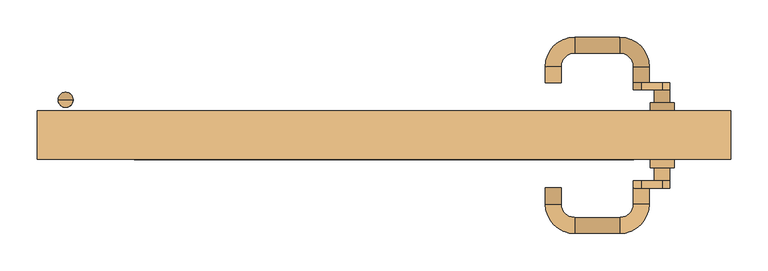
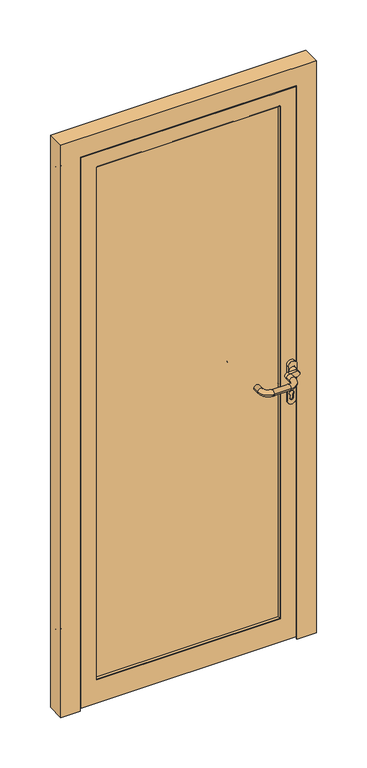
"""IFC4 building model written with IfcOpenShell, lengths in millimetres: door geometry, Porte Ext vitrée : Menuiserie 3."""

import ifcopenshell
import ifcopenshell.guid

model = None  # the IFC model being written
_history = None  # IfcOwnerHistory: only IFC2X3 demands one
_inside = {}  # id of a spatial element -> (the spatial element, [elements in it])
_under = {}  # id of a project, library or spatial element -> (it, [spatial elements below it])
_declared = {}  # id of a project -> (the project, [libraries it declares])
_typed = {}  # id of a type object -> (the type object, [elements of that type])
_made_of = {}  # id of a material, layer set ... -> (it, [elements and type objects made of it])


def new_model(schema):
    """Start an empty IFC model of exactly this schema.

    Asked for "IFC4X3", IfcOpenShell would pick the latest addendum, in which some entities
    have other attributes; the version numbers below select the first issue.
    IFC2X3 requires an IfcOwnerHistory on every rooted entity: one is made here for all.
    """
    global model, _history
    if schema == "IFC4X3":
        model = ifcopenshell.file(schema_version=(4, 3, 0, 0))
    else:
        model = ifcopenshell.file(schema=schema)
    _inside.clear()
    _under.clear()
    _declared.clear()
    _typed.clear()
    _made_of.clear()
    _history = None
    if model.schema == "IFC2X3":
        org = make("IfcOrganization", Name="unknown")
        user = make(
            "IfcPersonAndOrganization",
            ThePerson=make("IfcPerson", FamilyName="unknown"),
            TheOrganization=org,
        )
        app = make(
            "IfcApplication",
            ApplicationDeveloper=org,
            Version="unknown",
            ApplicationFullName="unknown",
            ApplicationIdentifier="unknown",
        )
        _history = make(
            "IfcOwnerHistory",
            OwningUser=user,
            OwningApplication=app,
            ChangeAction="ADDED",
            CreationDate=0,
        )
    return model


def make(cls, **values):
    """One entity of the class cls with the attributes given. An attribute that is None is left unset."""
    return model.create_entity(
        cls, **{name: value for name, value in values.items() if value is not None}
    )


def rooted(cls, **values):
    """An entity with a GlobalId (a new one), such as an element, a storey or a relation."""
    return make(cls, GlobalId=ifcopenshell.guid.new(), OwnerHistory=_history, **values)


def si_unit(unit_type, name, prefix=None):
    """IfcSIUnit, for example si_unit("LENGTHUNIT", "METRE", prefix="MILLI")."""
    return make("IfcSIUnit", UnitType=unit_type, Prefix=prefix, Name=name)


def assignment(units):
    """IfcUnitAssignment: the units of a project."""
    return None if units is None else make("IfcUnitAssignment", Units=units)


def point(xyz):
    """IfcCartesianPoint."""
    return None if xyz is None else make("IfcCartesianPoint", Coordinates=xyz)


def direction(xyz):
    """IfcDirection."""
    return None if xyz is None else make("IfcDirection", DirectionRatios=xyz)


def frame(location, z_axis=None, x_axis=None):
    """IfcAxis2Placement3D, a coordinate frame: its origin and axes. An axis left out is left unset."""
    return make(
        "IfcAxis2Placement3D",
        Location=point(location),
        Axis=direction(z_axis),
        RefDirection=direction(x_axis),
    )


def frame_2d(location, x_axis=None):
    """IfcAxis2Placement2D, a coordinate frame in the plane: its origin and x axis."""
    return make(
        "IfcAxis2Placement2D", Location=point(location), RefDirection=direction(x_axis)
    )


def origin():
    """The frame at (0, 0, 0) with its axes left unset."""
    return frame((0.0, 0.0, 0.0))


def place(relative_to, where):
    """IfcLocalPlacement: puts the frame where relative to a parent placement (None: the world)."""
    return make(
        "IfcLocalPlacement", PlacementRelTo=relative_to, RelativePlacement=where
    )


def context(
    kind, dimensions, precision=None, world=None, true_north=None, identifier=None
):
    """IfcGeometricRepresentationContext, for example the 3D "Model" context."""
    return make(
        "IfcGeometricRepresentationContext",
        ContextIdentifier=identifier,
        ContextType=kind,
        CoordinateSpaceDimension=dimensions,
        Precision=precision,
        WorldCoordinateSystem=world,
        TrueNorth=true_north,
    )


def project(units=None, contexts=None):
    """IfcProject with its units and contexts."""
    return rooted(
        "IfcProject",
        Name="project",
        RepresentationContexts=contexts,
        UnitsInContext=assignment(units),
    )


def spatial(cls, under=None, at=None, **own):
    """A site, building, storey or space (cls), placed at a placement, below another one or the project."""
    s = rooted(cls, ObjectPlacement=at, **own)
    if under is not None:
        _under.setdefault(under.id(), (under, []))[1].append(s)
    return s


def polyline(points):
    """IfcPolyline through the points."""
    return make("IfcPolyline", Points=[point(p) for p in points])


def circle_curve(where, radius):
    """IfcCircle in the frame where."""
    return make("IfcCircle", Position=where, Radius=radius)


def ellipse_curve(where, semi_axis1, semi_axis2):
    """IfcEllipse in the frame where."""
    return make(
        "IfcEllipse", Position=where, SemiAxis1=semi_axis1, SemiAxis2=semi_axis2
    )


def trimmed(basis, trim1, trim2, sense, master):
    """IfcTrimmedCurve: the piece of a basis curve between two trims."""
    return make(
        "IfcTrimmedCurve",
        BasisCurve=basis,
        Trim1=trim1,
        Trim2=trim2,
        SenseAgreement=sense,
        MasterRepresentation=master,
    )


def segment(curve, same_sense, transition):
    """IfcCompositeCurveSegment."""
    return make(
        "IfcCompositeCurveSegment",
        Transition=transition,
        SameSense=same_sense,
        ParentCurve=curve,
    )


def composite_curve(segments, self_intersect=None):
    """IfcCompositeCurve: segments joined end to end."""
    return make("IfcCompositeCurve", Segments=segments, SelfIntersect=self_intersect)


def outline(outer, holes=None, kind="AREA"):
    """IfcArbitraryClosedProfileDef: a profile drawn as a closed curve; with holes, ...WithVoids."""
    if holes is None:
        return make("IfcArbitraryClosedProfileDef", ProfileType=kind, OuterCurve=outer)
    return make(
        "IfcArbitraryProfileDefWithVoids",
        ProfileType=kind,
        OuterCurve=outer,
        InnerCurves=holes,
    )


def extrude(swept, where, along, depth):
    """IfcExtrudedAreaSolid: the profile swept, set in the frame where, extruded along a direction by depth."""
    return make(
        "IfcExtrudedAreaSolid",
        SweptArea=swept,
        Position=where,
        ExtrudedDirection=direction(along),
        Depth=depth,
    )


def faces_of(points, faces, orient=None, outer=None):
    """IfcFace entities. A face is a list of loops; a loop is a list of indices into points, from 0.

    orient and outer hold one flag for each loop. By default every Orientation is true, the
    first loop of a face is its IfcFaceOuterBound and the others are IfcFaceBound.
    """
    made = []
    for i, loops in enumerate(faces):
        bounds = []
        for j, loop in enumerate(loops):
            is_outer = j == 0 if outer is None else outer[i][j]
            bounds.append(
                make(
                    "IfcFaceOuterBound" if is_outer else "IfcFaceBound",
                    Bound=make("IfcPolyLoop", Polygon=[points[k] for k in loop]),
                    Orientation=True if orient is None else orient[i][j],
                )
            )
        made.append(make("IfcFace", Bounds=bounds))
    return made


def faceted_brep(points, faces, orient=None, outer=None, voids=None):
    """IfcFacetedBrep: a solid bounded by flat faces; with voids (closed shells), ...WithVoids."""
    shared = [point(p) for p in points]
    hull = make("IfcClosedShell", CfsFaces=faces_of(shared, faces, orient, outer))
    if voids is None:
        return make("IfcFacetedBrep", Outer=hull)
    return make(
        "IfcFacetedBrepWithVoids",
        Outer=hull,
        Voids=[
            make(cls, CfsFaces=faces_of(shared, fs, o, b)) for cls, fs, o, b in voids
        ],
    )


def shape(context_of_items, identifier, shape_type, items):
    """IfcShapeRepresentation: the items that make up one representation, for example the "Body"."""
    return make(
        "IfcShapeRepresentation",
        ContextOfItems=context_of_items,
        RepresentationIdentifier=identifier,
        RepresentationType=shape_type,
        Items=items,
    )


def source(mapping_origin, context_of_items, identifier, shape_type, items):
    """IfcRepresentationMap: a shape defined once, which mapped items show again and again."""
    return make(
        "IfcRepresentationMap",
        MappingOrigin=mapping_origin,
        MappedRepresentation=shape(context_of_items, identifier, shape_type, items),
    )


def transform(
    local_origin,
    x_axis=None,
    y_axis=None,
    z_axis=None,
    scale=None,
    scale2=None,
    scale3=None,
    uniform=True,
):
    """IfcCartesianTransformationOperator3D, or its non-uniform kind. x_axis, y_axis, z_axis: its Axis1, 2, 3."""
    if uniform:
        return make(
            "IfcCartesianTransformationOperator3D",
            Axis1=direction(x_axis),
            Axis2=direction(y_axis),
            LocalOrigin=point(local_origin),
            Scale=scale,
            Axis3=direction(z_axis),
        )
    return make(
        "IfcCartesianTransformationOperator3DnonUniform",
        Axis1=direction(x_axis),
        Axis2=direction(y_axis),
        LocalOrigin=point(local_origin),
        Scale=scale,
        Axis3=direction(z_axis),
        Scale2=scale2,
        Scale3=scale3,
    )


def mapped(mapping_source, mapping_target):
    """IfcMappedItem: shows the shape of a source again, moved by a transform."""
    return make(
        "IfcMappedItem", MappingSource=mapping_source, MappingTarget=mapping_target
    )


def made_of(thing, what):
    """Note that an element or type object is made of a material, layer set ...; save() writes the relation."""
    if what is not None:
        _made_of.setdefault(what.id(), (what, []))[1].append(thing)
    return thing


def element(
    cls,
    number,
    at=None,
    inside=None,
    cuts=None,
    type_object=None,
    material=None,
    context=None,
    identifier="Body",
    shape_type=None,
    held_by="IfcProductDefinitionShape",
    body=None,
    shapes=None,
    **own,
):
    """One element of the class cls, such as IfcWall. Its Tag is "e" and its number.

    at: its placement. inside: the storey or other place that contains it. cuts: it is an
    opening in that element (IfcRelVoidsElement). A single representation is given by context,
    identifier, shape_type and body (its items); several are given by shapes. held_by: the class
    of the entity that holds the representations. save() writes the other relations.
    """
    e = rooted(cls, Tag="e%d" % number, ObjectPlacement=at, **own)
    if body is not None:
        shapes = [shape(context, identifier, shape_type, body)]
    if shapes is not None:
        e.Representation = make(held_by, Representations=shapes)
    if inside is not None:
        _inside.setdefault(inside.id(), (inside, []))[1].append(e)
    if cuts is not None:
        rooted(
            "IfcRelVoidsElement", RelatingBuildingElement=cuts, RelatedOpeningElement=e
        )
    if type_object is not None:
        _typed.setdefault(type_object.id(), (type_object, []))[1].append(e)
    return made_of(e, material)


def aggregate(whole, parts):
    """IfcRelAggregates: a whole, such as a stair, and the parts it consists of."""
    return rooted("IfcRelAggregates", RelatingObject=whole, RelatedObjects=parts)


def save(model, path):
    """Write the relations noted so far, then the file.

    IfcRelAggregates (storeys below a building ...), IfcRelContainedInSpatialStructure (elements
    in a storey), IfcRelDefinesByType, IfcRelAssociatesMaterial and IfcRelDeclares: one each for
    every whole, place, type object, material and project.
    """
    for whole, parts in _under.values():
        aggregate(whole, parts)
    for where, things in _inside.values():
        rooted(
            "IfcRelContainedInSpatialStructure",
            RelatedElements=things,
            RelatingStructure=where,
        )
    for kind, things in _typed.values():
        rooted("IfcRelDefinesByType", RelatedObjects=things, RelatingType=kind)
    for what, things in _made_of.values():
        rooted("IfcRelAssociatesMaterial", RelatedObjects=things, RelatingMaterial=what)
    for by, libraries in _declared.values():
        rooted("IfcRelDeclares", RelatingContext=by, RelatedDefinitions=libraries)
    model.write(path)


def plane_surface(at):
    """IfcPlane: the flat surface through the origin of the frame at, square to its z axis."""
    return make("IfcPlane", Position=at)


def cylinder_surface(at, radius):
    """IfcCylindricalSurface: all points at the distance radius from the z axis of the frame at."""
    return make("IfcCylindricalSurface", Position=at, Radius=radius)


def revolved_surface(curve, axis_point, axis_direction):
    """IfcSurfaceOfRevolution: the curve turned about the line through axis_point along axis_direction."""
    return make(
        "IfcSurfaceOfRevolution",
        SweptCurve=make("IfcArbitraryOpenProfileDef", ProfileType="CURVE", Curve=curve),
        AxisPosition=make("IfcAxis1Placement", Location=point(axis_point), Axis=direction(axis_direction)),
    )


def advanced_brep(points, edges, surfaces, faces):
    """IfcAdvancedBrep: a solid bounded by faces that lie on surfaces and meet in shared edges.

    An edge is (start, end): straight between two places in points (the first is 0);
    or (start, end, curve); or (start, end, curve, False) where it runs against its curve.
    A face is (place in surfaces, loops), or (place, loops, False) where it looks against
    its surface's normal. A loop lists edges by number (the first is 1), with a minus sign
    where the edge is run from its end to its start. The first loop is the outer one.
    """
    corners = [point(p) for p in points]
    vertices = [make("IfcVertexPoint", VertexGeometry=c) for c in corners]
    made = []
    for start, end, *more in edges:
        made.append(
            make(
                "IfcEdgeCurve",
                EdgeStart=vertices[start],
                EdgeEnd=vertices[end],
                EdgeGeometry=more[0] if more else make("IfcPolyline", Points=[corners[start], corners[end]]),
                SameSense=more[1] if len(more) > 1 else True,
            )
        )
    hull = []
    for where, loops, *sense in faces:
        bounds = []
        for j, loop in enumerate(loops):
            ring = [make("IfcOrientedEdge", EdgeElement=made[abs(k) - 1], Orientation=k > 0) for k in loop]
            bounds.append(
                make(
                    "IfcFaceOuterBound" if j == 0 else "IfcFaceBound",
                    Bound=make("IfcEdgeLoop", EdgeList=ring),
                    Orientation=True,
                )
            )
        hull.append(make("IfcAdvancedFace", Bounds=bounds, FaceSurface=surfaces[where], SameSense=sense[0] if sense else True))
    return make("IfcAdvancedBrep", Outer=make("IfcClosedShell", CfsFaces=hull))


def door_be1b824a(model_context):
    return source(origin(), model_context, "Body", "SolidModel", [
        extrude(outline(composite_curve([segment(polyline([(951.0018449, 367.8650105), (937.965, 367.8650105)]), True, "CONTINUOUS"), segment(trimmed(circle_curve(frame_2d((937.965, 373.0000105)), 5.135), [point((937.965, 367.8650105))], [point((937.965, 378.1350105))], False, "CARTESIAN"), True, "CONTINUOUS"), segment(polyline([(937.965, 378.1350105), (951.0018449, 378.1350105)]), True, "CONTINUOUS"), segment(trimmed(circle_curve(frame_2d((958.0, 373.0000105)), 8.68), [point((951.0018449, 378.1350105))], [point((951.0018449, 367.8650105))], False, "CARTESIAN"), True, "CONTINUOUS")], self_intersect=False)), frame((0.0, -62.0, 0.0), z_axis=(0.0, 1.0, 0.0), x_axis=(0.0, 0.0, 1.0)), (0.0, 0.0, 1.0), 0.9980623),
        advanced_brep(
        [(373.0000105, -23.7, 1039.5), (345.0000105, -23.7, 1039.5), (355.5000105, -23.7, 1050.0), (345.0000105, -23.7, 1060.5), (373.0000105, -23.7, 1060.5), (383.5000105, -23.7, 1050.0), (373.0000105, -33.7, 1060.5), (345.0000105, -33.7, 1060.5), (345.0000105, -33.7, 1039.5), (373.0000105, -33.7, 1039.5), (362.5000105, -33.7, 1050.0), (334.5000105, -23.7, 1050.0), (383.5000105, -33.7, 1050.0), (383.5000105, -62.0, 1050.0), (362.5000105, -62.0, 1050.0), (216.5000105, -24.1999948, 1050.0), (237.5000105, -24.1999948, 1050.0), (216.5000105, -2.2, 1050.0), (237.5000105, -2.2, 1050.0), (255.5000105, 36.8, 1050.0), (255.5000105, 15.8, 1050.0), (316.5000105, 36.8, 1050.0), (316.5000105, 15.8, 1050.0), (355.5000105, -2.2, 1050.0), (334.5000105, -2.2, 1050.0)],
        [
            (0, 1),
            (1, 2, circle_curve(frame((345.0000105, -23.7, 1050.0), z_axis=(0.0, -1.0, 0.0), x_axis=(-1.0, 0.0, 0.0)), 10.5)),
            (2, 3, circle_curve(frame((345.0000105, -23.7, 1050.0), z_axis=(0.0, -1.0, 0.0), x_axis=(-1.0, 0.0, 0.0)), 10.5)),
            (3, 4),
            (4, 5, circle_curve(frame((373.0000105, -23.7, 1050.0), z_axis=(0.0, 1.0, 0.0), x_axis=(-1.0, 0.0, 0.0)), 10.5)),
            (5, 0, circle_curve(frame((373.0000105, -23.7, 1050.0), z_axis=(0.0, 1.0, 0.0), x_axis=(-1.0, 0.0, 0.0)), 10.5)),
            (6, 7),
            (7, 8, circle_curve(frame((345.0000105, -33.7, 1050.0), z_axis=(0.0, -1.0, 0.0), x_axis=(-1.0, 0.0, 0.0)), 10.5)),
            (8, 9),
            (9, 10, circle_curve(frame((373.0000105, -33.7, 1050.0), z_axis=(0.0, 1.0, 0.0), x_axis=(-1.0, 0.0, 0.0)), 10.5)),
            (10, 6, circle_curve(frame((373.0000105, -33.7, 1050.0), z_axis=(0.0, 1.0, 0.0), x_axis=(-1.0, 0.0, 0.0)), 10.5)),
            (0, 9),
            (8, 1),
            (7, 3),
            (3, 11, circle_curve(frame((345.0000105, -23.7, 1050.0), z_axis=(0.0, -1.0, 0.0), x_axis=(-1.0, 0.0, 0.0)), 10.5)),
            (11, 1, circle_curve(frame((345.0000105, -23.7, 1050.0), z_axis=(0.0, -1.0, 0.0), x_axis=(-1.0, 0.0, 0.0)), 10.5)),
            (6, 4),
            (6, 12, circle_curve(frame((373.0000105, -33.7, 1050.0), z_axis=(0.0, 1.0, 0.0), x_axis=(-1.0, 0.0, 0.0)), 10.5)),
            (12, 9, circle_curve(frame((373.0000105, -33.7, 1050.0), z_axis=(0.0, 1.0, 0.0), x_axis=(-1.0, 0.0, 0.0)), 10.5)),
            (13, 14, circle_curve(frame((373.0000105, -62.0, 1050.0), z_axis=(0.0, -1.0, 0.0), x_axis=(-1.0, 0.0, 0.0)), 10.5)),
            (14, 13, circle_curve(frame((373.0000105, -62.0, 1050.0), z_axis=(0.0, -1.0, 0.0), x_axis=(-1.0, 0.0, 0.0)), 10.5)),
            (14, 10),
            (12, 13),
            (15, 16, circle_curve(frame((227.0000105, -24.1999948, 1050.0), z_axis=(0.0, -1.0, 0.0), x_axis=(1.0, 0.0, 0.0)), 10.5)),
            (16, 15, circle_curve(frame((227.0000105, -24.1999948, 1050.0), z_axis=(0.0, -1.0, 0.0), x_axis=(1.0, 0.0, 0.0)), 10.5)),
            (15, 17),
            (17, 18, circle_curve(frame((227.0000105, -2.2, 1050.0), z_axis=(0.0, -1.0, 0.0), x_axis=(1.0, 0.0, 0.0)), 10.5)),
            (18, 16),
            (18, 17, circle_curve(frame((227.0000105, -2.2, 1050.0), z_axis=(0.0, -1.0, 0.0), x_axis=(1.0, 0.0, 0.0)), 10.5)),
            (17, 19, circle_curve(frame((255.5000105, -2.2, 1050.0), z_axis=(0.0, 0.0, -1.0), x_axis=(-1.0000000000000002, 0.0, 0.0)), 39.0)),
            (19, 20, circle_curve(frame((255.5000105, 26.3, 1050.0), z_axis=(-1.0000000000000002, 0.0, 0.0), x_axis=(0.0, -1.000000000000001, 0.0)), 10.5)),
            (20, 18, circle_curve(frame((255.5000105, -2.2, 1050.0), z_axis=(0.0, 0.0, 1.0), x_axis=(-1.0000000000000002, 0.0, 0.0)), 18.0)),
            (20, 19, circle_curve(frame((255.5000105, 26.3, 1050.0), z_axis=(-1.0000000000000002, 0.0, 0.0), x_axis=(0.0, -1.000000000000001, 0.0)), 10.5)),
            (19, 21),
            (21, 22, circle_curve(frame((316.5000105, 26.3, 1050.0), z_axis=(-1.0, 0.0, 0.0), x_axis=(0.0, -1.0, 0.0)), 10.5)),
            (22, 20),
            (22, 21, circle_curve(frame((316.5000105, 26.3, 1050.0), z_axis=(-1.0, 0.0, 0.0), x_axis=(0.0, -1.0, 0.0)), 10.5)),
            (21, 23, circle_curve(frame((316.5000105, -2.2, 1050.0), z_axis=(0.0, 0.0, -1.0), x_axis=(0.0, 1.0000000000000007, 0.0)), 39.0)),
            (23, 24, circle_curve(frame((345.0000105, -2.2, 1050.0), z_axis=(0.0, 1.0000000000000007, 0.0), x_axis=(-1.0000000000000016, 0.0, 0.0)), 10.5)),
            (24, 22, circle_curve(frame((316.5000105, -2.2, 1050.0), z_axis=(0.0, 0.0, 1.0), x_axis=(0.0, 1.0000000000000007, 0.0)), 18.0)),
            (24, 23, circle_curve(frame((345.0000105, -2.2, 1050.0), z_axis=(0.0, 1.0000000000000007, 0.0), x_axis=(-1.0000000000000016, 0.0, 0.0)), 10.5)),
            (23, 2),
            (11, 24),
        ],
        [
            plane_surface(frame((373.0000105, -23.7, 1039.5), z_axis=(0.0, 1.0, 0.0), x_axis=(-1.0, 0.0, 0.0))),
            plane_surface(frame((373.0000105, -33.7, 1039.5), z_axis=(0.0, -1.0, 0.0), x_axis=(1.0, 0.0, 0.0))),
            plane_surface(frame((373.0000105, -23.7, 1039.5), z_axis=(0.0, 0.0, -1.0), x_axis=(0.0, -1.0, 0.0))),
            cylinder_surface(frame((345.0000105, -33.7, 1050.0), z_axis=(0.0, 1.0, 0.0), x_axis=(-1.0, 0.0, 0.0)), 10.5),
            plane_surface(frame((345.0000105, -23.7, 1060.5), z_axis=(0.0, 0.0, 1.0), x_axis=(0.0, -1.0, 0.0))),
            cylinder_surface(frame((373.0000105, -33.7, 1050.0), z_axis=(0.0, 1.0, 0.0), x_axis=(-1.0, 0.0, 0.0)), 10.5),
            plane_surface(frame((362.5000105, -62.0, 1050.0), z_axis=(0.0, -1.0, 0.0), x_axis=(0.0, 0.0, -1.0))),
            cylinder_surface(frame((373.0000105, -62.0, 1050.0), z_axis=(0.0, 1.0, 0.0), x_axis=(-1.0, 0.0, 0.0)), 10.5),
            plane_surface(frame((216.5000105, -24.1999948, 1050.0), z_axis=(0.0, -1.0, 0.0), x_axis=(0.0, 0.0, -1.0))),
            cylinder_surface(frame((227.0000105, -24.1999948, 1050.0), z_axis=(0.0, -1.0, 0.0), x_axis=(1.0, 0.0, 0.0)), 10.5),
            revolved_surface(trimmed(ellipse_curve(frame((227.0000105, -2.2, 1050.0), z_axis=(0.0, -1.000000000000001, 0.0), x_axis=(1.0000000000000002, 0.0, 0.0)), 10.5, 10.5), [point((216.5000105, -2.2, 1050.0))], [point((237.5000105, -2.2, 1050.0))], True, "CARTESIAN"), (255.5000105, -2.2, 1050.0), (0.0, 0.0, -1.0000000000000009)),
            revolved_surface(trimmed(ellipse_curve(frame((227.0000105, -2.2, 1050.0), z_axis=(0.0, -1.000000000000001, 0.0), x_axis=(1.0000000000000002, 0.0, 0.0)), 10.5, 10.5), [point((237.5000105, -2.2, 1050.0))], [point((216.5000105, -2.2, 1050.0))], True, "CARTESIAN"), (255.5000105, -2.2, 1050.0), (0.0, 0.0, -1.0000000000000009)),
            cylinder_surface(frame((255.5000105, 26.3, 1050.0), z_axis=(-1.0, 0.0, 0.0), x_axis=(0.0, -1.0, 0.0)), 10.5),
            revolved_surface(trimmed(ellipse_curve(frame((316.5000105, 26.3, 1050.0), z_axis=(-1.0000000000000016, 0.0, 0.0), x_axis=(0.0, -1.0000000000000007, 0.0)), 10.5, 10.5), [point((316.5000105, 36.8, 1050.0))], [point((316.5000105, 15.8, 1050.0))], True, "CARTESIAN"), (316.5000105, -2.2, 1050.0), (0.0, 0.0, -1.0000000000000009)),
            revolved_surface(trimmed(ellipse_curve(frame((316.5000105, 26.3, 1050.0), z_axis=(-1.0000000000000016, 0.0, 0.0), x_axis=(0.0, -1.0000000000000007, 0.0)), 10.5, 10.5), [point((316.5000105, 15.8, 1050.0))], [point((316.5000105, 36.8, 1050.0))], True, "CARTESIAN"), (316.5000105, -2.2, 1050.0), (0.0, 0.0, -1.0000000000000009)),
            cylinder_surface(frame((345.0000105, -2.2, 1050.0), z_axis=(0.0, 1.0, 0.0), x_axis=(-1.0, 0.0, 0.0)), 10.5),
        ],
        [
            (0, [[1, 2, 3, 4, 5, 6]]),
            (1, [[7, 8, 9, 10, 11]]),
            (2, [[-1, 12, -9, 13]]),
            (3, [[-8, 14, 15, 16, -13]]),
            (4, [[-4, -14, -7, 17]]),
            (5, [[-12, -6, -5, -17, 18, 19]]),
            (6, [[20, 21]]),
            (7, [[-21, 22, -10, -19, 23]]),
            (7, [[-20, -23, -18, -11, -22]]),
            (8, [[24, 25]]),
            (9, [[-24, 26, 27, 28]]),
            (9, [[-25, -28, 29, -26]]),
            (10, [[-27, 30, 31, 32]]),
            (11, [[-29, -32, 33, -30]]),
            (12, [[-31, 34, 35, 36]]),
            (12, [[-33, -36, 37, -34]]),
            (13, [[-35, 38, 39, 40]]),
            (14, [[-37, -40, 41, -38]]),
            (15, [[-39, 42, -2, -16, 43]]),
            (15, [[-41, -43, -15, -3, -42]]),
        ],
    ),
        extrude(outline(composite_curve([segment(trimmed(circle_curve(frame_2d((967.18, 373.0000105)), 16.0), [point((967.18, 389.0000105))], [point((967.18, 357.0000105))], False, "CARTESIAN"), True, "CONTINUOUS"), segment(polyline([(967.18, 357.0000105), (932.18, 357.0000105)]), True, "CONTINUOUS"), segment(trimmed(circle_curve(frame_2d((932.18, 373.0000105)), 16.0), [point((932.18, 357.0000105))], [point((932.18, 389.0000105))], False, "CARTESIAN"), True, "CONTINUOUS"), segment(polyline([(932.18, 389.0000105), (967.18, 389.0000105)]), True, "CONTINUOUS")], self_intersect=False), holes=[composite_curve([segment(trimmed(circle_curve(frame_2d((937.965, 373.0000105)), 5.135), [point((937.965, 378.1350105))], [point((937.965, 367.8650105))], True, "CARTESIAN"), True, "CONTINUOUS"), segment(polyline([(937.965, 367.8650105), (951.0018449, 367.8650105)]), True, "CONTINUOUS"), segment(trimmed(circle_curve(frame_2d((958.0, 373.0000105)), 8.68), [point((951.0018449, 367.8650105))], [point((951.0018449, 378.1350105))], True, "CARTESIAN"), True, "CONTINUOUS"), segment(polyline([(951.0018449, 378.1350105), (937.965, 378.1350105)]), True, "CONTINUOUS")], self_intersect=False)]), frame((0.0, -62.0, 0.0), z_axis=(0.0, 1.0, 0.0), x_axis=(0.0, 0.0, 1.0)), (0.0, 0.0, 1.0), 5.0),
        extrude(outline(composite_curve([segment(polyline([(1067.5, 357.0000105), (1032.5, 357.0000105)]), True, "CONTINUOUS"), segment(trimmed(circle_curve(frame_2d((1032.5, 373.0000105)), 16.0), [point((1032.5, 357.0000105))], [point((1032.5, 389.0000105))], False, "CARTESIAN"), True, "CONTINUOUS"), segment(polyline([(1032.5, 389.0000105), (1067.5, 389.0000105)]), True, "CONTINUOUS"), segment(trimmed(circle_curve(frame_2d((1067.5, 373.0000105)), 16.0), [point((1067.5, 389.0000105))], [point((1067.5, 357.0000105))], False, "CARTESIAN"), True, "CONTINUOUS")], self_intersect=False), holes=[composite_curve([segment(trimmed(circle_curve(frame_2d((1050.0, 373.0000105)), 12.2), [point((1050.0, 385.2000105))], [point((1050.0, 360.8000105))], True, "CARTESIAN"), True, "CONTINUOUS"), segment(trimmed(circle_curve(frame_2d((1050.0, 373.0000105)), 12.2), [point((1050.0, 360.8000105))], [point((1050.0, 385.2000105))], True, "CARTESIAN"), True, "CONTINUOUS")], self_intersect=False)]), frame((0.0, -62.0, 0.0), z_axis=(0.0, 1.0, 0.0), x_axis=(0.0, 0.0, 1.0)), (0.0, 0.0, 1.0), 11.0),
        extrude(outline(composite_curve([segment(polyline([(951.0018449, 367.8650105), (937.965, 367.8650105)]), True, "CONTINUOUS"), segment(trimmed(circle_curve(frame_2d((937.965, 373.0000105)), 5.135), [point((937.965, 367.8650105))], [point((937.965, 378.1350105))], False, "CARTESIAN"), True, "CONTINUOUS"), segment(polyline([(937.965, 378.1350105), (951.0018449, 378.1350105)]), True, "CONTINUOUS"), segment(trimmed(circle_curve(frame_2d((958.0, 373.0000105)), 8.68), [point((951.0018449, 378.1350105))], [point((951.0018449, 367.8650105))], False, "CARTESIAN"), True, "CONTINUOUS")], self_intersect=False)), frame((0.0, -127.9980623, 0.0), z_axis=(0.0, 1.0, 0.0), x_axis=(0.0, 0.0, 1.0)), (0.0, 0.0, 1.0), 0.9980623),
        advanced_brep(
        [(373.0000105, -165.3, 1039.5), (383.5000105, -165.3, 1050.0), (373.0000105, -165.3, 1060.5), (345.0000105, -165.3, 1060.5), (355.5000105, -165.3, 1050.0), (345.0000105, -165.3, 1039.5), (373.0000105, -155.3, 1060.5), (362.5000105, -155.3, 1050.0), (373.0000105, -155.3, 1039.5), (345.0000105, -155.3, 1039.5), (345.0000105, -155.3, 1060.5), (334.5000105, -165.3, 1050.0), (383.5000105, -155.3, 1050.0), (383.5000105, -127.0, 1050.0), (362.5000105, -127.0, 1050.0), (216.5000105, -164.8000052, 1050.0), (237.5000105, -164.8000052, 1050.0), (237.5000105, -186.8, 1050.0), (216.5000105, -186.8, 1050.0), (255.5000105, -204.8, 1050.0), (255.5000105, -225.8, 1050.0), (316.5000105, -204.8, 1050.0), (316.5000105, -225.8, 1050.0), (334.5000105, -186.8, 1050.0), (355.5000105, -186.8, 1050.0)],
        [
            (0, 1, circle_curve(frame((373.0000105, -165.3, 1050.0), z_axis=(0.0, -1.0, 0.0), x_axis=(-1.0, 0.0, 0.0)), 10.5)),
            (1, 2, circle_curve(frame((373.0000105, -165.3, 1050.0), z_axis=(0.0, -1.0, 0.0), x_axis=(-1.0, 0.0, 0.0)), 10.5)),
            (2, 3),
            (3, 4, circle_curve(frame((345.0000105, -165.3, 1050.0), z_axis=(0.0, 1.0, 0.0), x_axis=(-1.0, 0.0, 0.0)), 10.5)),
            (4, 5, circle_curve(frame((345.0000105, -165.3, 1050.0), z_axis=(0.0, 1.0, 0.0), x_axis=(-1.0, 0.0, 0.0)), 10.5)),
            (5, 0),
            (6, 7, circle_curve(frame((373.0000105, -155.3, 1050.0), z_axis=(0.0, -1.0, 0.0), x_axis=(-1.0, 0.0, 0.0)), 10.5)),
            (7, 8, circle_curve(frame((373.0000105, -155.3, 1050.0), z_axis=(0.0, -1.0, 0.0), x_axis=(-1.0, 0.0, 0.0)), 10.5)),
            (8, 9),
            (9, 10, circle_curve(frame((345.0000105, -155.3, 1050.0), z_axis=(0.0, 1.0, 0.0), x_axis=(-1.0, 0.0, 0.0)), 10.5)),
            (10, 6),
            (5, 9),
            (8, 0),
            (5, 11, circle_curve(frame((345.0000105, -165.3, 1050.0), z_axis=(0.0, 1.0, 0.0), x_axis=(-1.0, 0.0, 0.0)), 10.5)),
            (11, 3, circle_curve(frame((345.0000105, -165.3, 1050.0), z_axis=(0.0, 1.0, 0.0), x_axis=(-1.0, 0.0, 0.0)), 10.5)),
            (3, 10),
            (2, 6),
            (8, 12, circle_curve(frame((373.0000105, -155.3, 1050.0), z_axis=(0.0, -1.0, 0.0), x_axis=(-1.0, 0.0, 0.0)), 10.5)),
            (12, 6, circle_curve(frame((373.0000105, -155.3, 1050.0), z_axis=(0.0, -1.0, 0.0), x_axis=(-1.0, 0.0, 0.0)), 10.5)),
            (13, 14, circle_curve(frame((373.0000105, -127.0, 1050.0), z_axis=(0.0, 1.0, 0.0), x_axis=(-1.0, 0.0, 0.0)), 10.5)),
            (14, 13, circle_curve(frame((373.0000105, -127.0, 1050.0), z_axis=(0.0, 1.0, 0.0), x_axis=(-1.0, 0.0, 0.0)), 10.5)),
            (13, 12),
            (7, 14),
            (15, 16, circle_curve(frame((227.0000105, -164.8000052, 1050.0), z_axis=(0.0, 1.0, 0.0), x_axis=(1.0, 0.0, 0.0)), 10.5)),
            (16, 15, circle_curve(frame((227.0000105, -164.8000052, 1050.0), z_axis=(0.0, 1.0, 0.0), x_axis=(1.0, 0.0, 0.0)), 10.5)),
            (16, 17),
            (17, 18, circle_curve(frame((227.0000105, -186.8, 1050.0), z_axis=(0.0, 1.0, 0.0), x_axis=(1.0, 0.0, 0.0)), 10.5)),
            (18, 15),
            (18, 17, circle_curve(frame((227.0000105, -186.8, 1050.0), z_axis=(0.0, 1.0, 0.0), x_axis=(1.0, 0.0, 0.0)), 10.5)),
            (17, 19, circle_curve(frame((255.5000105, -186.8, 1050.0), z_axis=(0.0, 0.0, 1.0), x_axis=(-1.0000000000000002, 0.0, 0.0)), 18.0)),
            (19, 20, circle_curve(frame((255.5000105, -215.3, 1050.0), z_axis=(-1.0000000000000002, 0.0, 0.0), x_axis=(0.0, 1.000000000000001, 0.0)), 10.5)),
            (20, 18, circle_curve(frame((255.5000105, -186.8, 1050.0), z_axis=(0.0, 0.0, -1.0), x_axis=(-1.0000000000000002, 0.0, 0.0)), 39.0)),
            (20, 19, circle_curve(frame((255.5000105, -215.3, 1050.0), z_axis=(-1.0000000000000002, 0.0, 0.0), x_axis=(0.0, 1.000000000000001, 0.0)), 10.5)),
            (19, 21),
            (21, 22, circle_curve(frame((316.5000105, -215.3, 1050.0), z_axis=(-1.0, 0.0, 0.0), x_axis=(0.0, 1.0, 0.0)), 10.5)),
            (22, 20),
            (22, 21, circle_curve(frame((316.5000105, -215.3, 1050.0), z_axis=(-1.0, 0.0, 0.0), x_axis=(0.0, 1.0, 0.0)), 10.5)),
            (21, 23, circle_curve(frame((316.5000105, -186.8, 1050.0), z_axis=(0.0, 0.0, 1.0), x_axis=(0.0, -1.0000000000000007, 0.0)), 18.0)),
            (23, 24, circle_curve(frame((345.0000105, -186.8, 1050.0), z_axis=(0.0, -1.0000000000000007, 0.0), x_axis=(-1.0000000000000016, 0.0, 0.0)), 10.5)),
            (24, 22, circle_curve(frame((316.5000105, -186.8, 1050.0), z_axis=(0.0, 0.0, -1.0), x_axis=(0.0, -1.0000000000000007, 0.0)), 39.0)),
            (24, 23, circle_curve(frame((345.0000105, -186.8, 1050.0), z_axis=(0.0, -1.0000000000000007, 0.0), x_axis=(-1.0000000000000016, 0.0, 0.0)), 10.5)),
            (23, 11),
            (4, 24),
        ],
        [
            plane_surface(frame((373.0000105, -165.3, 1039.5), z_axis=(0.0, -1.0, 0.0), x_axis=(-1.0, 0.0, 0.0))),
            plane_surface(frame((373.0000105, -155.3, 1039.5), z_axis=(0.0, 1.0, 0.0), x_axis=(1.0, 0.0, 0.0))),
            plane_surface(frame((373.0000105, -165.3, 1039.5), z_axis=(0.0, 0.0, -1.0), x_axis=(0.0, 1.0, 0.0))),
            cylinder_surface(frame((345.0000105, -155.3, 1050.0), z_axis=(0.0, -1.0, 0.0), x_axis=(-1.0, 0.0, 0.0)), 10.5),
            plane_surface(frame((345.0000105, -165.3, 1060.5), z_axis=(0.0, 0.0, 1.0), x_axis=(0.0, 1.0, 0.0))),
            cylinder_surface(frame((373.0000105, -155.3, 1050.0), z_axis=(0.0, -1.0, 0.0), x_axis=(-1.0, 0.0, 0.0)), 10.5),
            plane_surface(frame((362.5000105, -127.0, 1050.0), z_axis=(0.0, 1.0, 0.0), x_axis=(0.0, 0.0, -1.0))),
            cylinder_surface(frame((373.0000105, -127.0, 1050.0), z_axis=(0.0, -1.0, 0.0), x_axis=(-1.0, 0.0, 0.0)), 10.5),
            plane_surface(frame((216.5000105, -164.8000052, 1050.0), z_axis=(0.0, 1.0, 0.0), x_axis=(0.0, 0.0, -1.0))),
            cylinder_surface(frame((227.0000105, -164.8000052, 1050.0), z_axis=(0.0, 1.0, 0.0), x_axis=(1.0, 0.0, 0.0)), 10.5),
            revolved_surface(trimmed(ellipse_curve(frame((227.0000105, -186.8, 1050.0), z_axis=(0.0, -1.000000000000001, 0.0), x_axis=(1.0000000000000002, 0.0, 0.0)), 10.5, 10.5), [point((216.5000105, -186.8, 1050.0))], [point((237.5000105, -186.8, 1050.0))], True, "CARTESIAN"), (255.5000105, -186.8, 1050.0), (0.0, 0.0, -1.0000000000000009)),
            revolved_surface(trimmed(ellipse_curve(frame((227.0000105, -186.8, 1050.0), z_axis=(0.0, -1.000000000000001, 0.0), x_axis=(1.0000000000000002, 0.0, 0.0)), 10.5, 10.5), [point((237.5000105, -186.8, 1050.0))], [point((216.5000105, -186.8, 1050.0))], True, "CARTESIAN"), (255.5000105, -186.8, 1050.0), (0.0, 0.0, -1.0000000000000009)),
            cylinder_surface(frame((255.5000105, -215.3, 1050.0), z_axis=(-1.0, 0.0, 0.0), x_axis=(0.0, 1.0, 0.0)), 10.5),
            revolved_surface(trimmed(ellipse_curve(frame((316.5000105, -215.3, 1050.0), z_axis=(1.0000000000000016, 0.0, 0.0), x_axis=(0.0, 1.0000000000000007, 0.0)), 10.5, 10.5), [point((316.5000105, -225.8, 1050.0))], [point((316.5000105, -204.8, 1050.0))], True, "CARTESIAN"), (316.5000105, -186.8, 1050.0), (0.0, 0.0, -1.0000000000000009)),
            revolved_surface(trimmed(ellipse_curve(frame((316.5000105, -215.3, 1050.0), z_axis=(1.0000000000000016, 0.0, 0.0), x_axis=(0.0, 1.0000000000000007, 0.0)), 10.5, 10.5), [point((316.5000105, -204.8, 1050.0))], [point((316.5000105, -225.8, 1050.0))], True, "CARTESIAN"), (316.5000105, -186.8, 1050.0), (0.0, 0.0, -1.0000000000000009)),
            cylinder_surface(frame((345.0000105, -186.8, 1050.0), z_axis=(0.0, -1.0, 0.0), x_axis=(-1.0, 0.0, 0.0)), 10.5),
        ],
        [
            (0, [[1, 2, 3, 4, 5, 6]]),
            (1, [[7, 8, 9, 10, 11]]),
            (2, [[12, -9, 13, -6]]),
            (3, [[-12, 14, 15, 16, -10]]),
            (4, [[17, -11, -16, -3]]),
            (5, [[18, 19, -17, -2, -1, -13]]),
            (6, [[20, 21]]),
            (7, [[22, -18, -8, 23, -20]]),
            (7, [[-23, -7, -19, -22, -21]]),
            (8, [[24, 25]]),
            (9, [[26, 27, 28, -25]]),
            (9, [[-28, 29, -26, -24]]),
            (10, [[30, 31, 32, -27]]),
            (11, [[-32, 33, -30, -29]]),
            (12, [[34, 35, 36, -31]]),
            (12, [[-36, 37, -34, -33]]),
            (13, [[38, 39, 40, -35]]),
            (14, [[-40, 41, -38, -37]]),
            (15, [[42, -14, -5, 43, -39]]),
            (15, [[-43, -4, -15, -42, -41]]),
        ],
    ),
        extrude(outline(composite_curve([segment(trimmed(circle_curve(frame_2d((967.18, 373.0000105)), 16.0), [point((967.18, 389.0000105))], [point((967.18, 357.0000105))], False, "CARTESIAN"), True, "CONTINUOUS"), segment(polyline([(967.18, 357.0000105), (932.18, 357.0000105)]), True, "CONTINUOUS"), segment(trimmed(circle_curve(frame_2d((932.18, 373.0000105)), 16.0), [point((932.18, 357.0000105))], [point((932.18, 389.0000105))], False, "CARTESIAN"), True, "CONTINUOUS"), segment(polyline([(932.18, 389.0000105), (967.18, 389.0000105)]), True, "CONTINUOUS")], self_intersect=False), holes=[composite_curve([segment(trimmed(circle_curve(frame_2d((937.965, 373.0000105)), 5.135), [point((937.965, 378.1350105))], [point((937.965, 367.8650105))], True, "CARTESIAN"), True, "CONTINUOUS"), segment(polyline([(937.965, 367.8650105), (951.0018449, 367.8650105)]), True, "CONTINUOUS"), segment(trimmed(circle_curve(frame_2d((958.0, 373.0000105)), 8.68), [point((951.0018449, 367.8650105))], [point((951.0018449, 378.1350105))], True, "CARTESIAN"), True, "CONTINUOUS"), segment(polyline([(951.0018449, 378.1350105), (937.965, 378.1350105)]), True, "CONTINUOUS")], self_intersect=False)]), frame((0.0, -132.0, 0.0), z_axis=(0.0, 1.0, 0.0), x_axis=(0.0, 0.0, 1.0)), (0.0, 0.0, 1.0), 5.0),
        extrude(outline(composite_curve([segment(polyline([(1067.5, 357.0000105), (1032.5, 357.0000105)]), True, "CONTINUOUS"), segment(trimmed(circle_curve(frame_2d((1032.5, 373.0000105)), 16.0), [point((1032.5, 357.0000105))], [point((1032.5, 389.0000105))], False, "CARTESIAN"), True, "CONTINUOUS"), segment(polyline([(1032.5, 389.0000105), (1067.5, 389.0000105)]), True, "CONTINUOUS"), segment(trimmed(circle_curve(frame_2d((1067.5, 373.0000105)), 16.0), [point((1067.5, 389.0000105))], [point((1067.5, 357.0000105))], False, "CARTESIAN"), True, "CONTINUOUS")], self_intersect=False), holes=[composite_curve([segment(trimmed(circle_curve(frame_2d((1050.0, 373.0000105)), 12.2), [point((1050.0, 385.2000105))], [point((1050.0, 360.8000105))], True, "CARTESIAN"), True, "CONTINUOUS"), segment(trimmed(circle_curve(frame_2d((1050.0, 373.0000105)), 12.2), [point((1050.0, 360.8000105))], [point((1050.0, 385.2000105))], True, "CARTESIAN"), True, "CONTINUOUS")], self_intersect=False)]), frame((0.0, -138.0, 0.0), z_axis=(0.0, 1.0, 0.0), x_axis=(0.0, 0.0, 1.0)), (0.0, 0.0, 1.0), 11.0),
        extrude(outline(polyline([(347.0000105, -118.9999966), (-347.0000105, -118.9999966), (-347.0000105, -95.9999936), (347.0000105, -95.9999936), (347.0000105, -118.9999966)])), frame((0.0, 0.0, 88.0000078), z_axis=(0.0, 0.0, 1.0), x_axis=(1.0, 0.0, 0.0)), (0.0, 0.0, 1.0), 1994.0000027),
        faceted_brep([(355.0000006, -123.9999966, 80.0000177), (-355.0000006, -123.9999966, 80.0000177), (-355.0000006, -118.9999966, 80.0000177), (355.0000006, -118.9999966, 80.0000177), (330.0000105, -118.9999966, 105.0000078), (-330.0000105, -118.9999966, 105.0000078), (-335.0000105, -123.9999966, 100.0000078), (335.0000105, -123.9999966, 100.0000078), (-355.0000006, -123.9999966, 2090.0000006), (-355.0000006, -118.9999966, 2090.0000006), (-330.0000105, -118.9999966, 2065.0000105), (-335.0000105, -123.9999966, 2070.0000105), (355.0000006, -123.9999966, 2090.0000006), (355.0000006, -118.9999966, 2090.0000006), (330.0000105, -118.9999966, 2065.0000105), (335.0000105, -123.9999966, 2070.0000105)], [[[0, 1, 2, 3]], [[4, 5, 6, 7]], [[1, 8, 9, 2]], [[5, 10, 11, 6]], [[8, 12, 13, 9]], [[10, 14, 15, 11]], [[12, 0, 3, 13]], [[1, 0, 12, 8], [7, 6, 11, 15]], [[14, 4, 7, 15]], [[3, 2, 9, 13], [5, 4, 14, 10]]]),
        faceted_brep([(335.0000105, -91.9999945, 100.0000078), (-335.0000105, -91.9999945, 100.0000078), (-330.0000105, -95.9999936, 105.0000078), (330.0000105, -95.9999936, 105.0000078), (355.0000006, -95.9999936, 80.0000177), (-355.0000006, -95.9999936, 80.0000177), (-355.0000006, -91.9999945, 80.0000177), (355.0000006, -91.9999945, 80.0000177), (-335.0000105, -91.9999945, 2070.0000105), (-330.0000105, -95.9999936, 2065.0000105), (-355.0000006, -95.9999936, 2090.0000006), (-355.0000006, -91.9999945, 2090.0000006), (335.0000105, -91.9999945, 2070.0000105), (330.0000105, -95.9999936, 2065.0000105), (355.0000006, -95.9999936, 2090.0000006), (355.0000006, -91.9999945, 2090.0000006)], [[[0, 1, 2, 3]], [[4, 5, 6, 7]], [[1, 8, 9, 2]], [[5, 10, 11, 6]], [[8, 12, 13, 9]], [[10, 14, 15, 11]], [[5, 4, 14, 10], [3, 2, 9, 13]], [[12, 0, 3, 13]], [[7, 6, 11, 15], [1, 0, 12, 8]], [[14, 4, 7, 15]]]),
        faceted_brep([(405.0000241, -65.0000136, 10.0), (405.0000241, -120.4000154, 10.0), (390.9923981, -120.4000154, 10.0), (390.9923981, -127.0000064, 10.0), (-390.9923887, -127.0000064, 10.0), (-390.9923887, -120.4000154, 10.0), (-405.0000147, -120.4000154, 10.0), (-405.0000147, -65.0000136, 10.0), (-424.9999993, -65.0000136, 10.0), (-424.9999993, -62.0, 10.0), (425.0000087, -62.0, 10.0), (425.0000087, -65.0000136, 10.0), (335.0000267, -127.0000064, 100.0000078), (335.0000267, -124.0000064, 100.0000078), (-335.0000173, -124.0000064, 100.0000078), (-335.0000173, -127.0000064, 100.0000078), (-355.0000094, -92.0000064, 80.0000099), (-355.0000094, -124.0000064, 80.0000099), (355.0000188, -124.0000064, 80.0000099), (355.0000188, -92.0000064, 80.0000099), (334.9999992, -92.0000064, 100.0), (334.9999992, -62.0, 100.0), (-334.9999898, -62.0, 100.0), (-334.9999898, -92.0000064, 100.0), (425.0000087, -65.0000136, 2159.9999925), (-424.9999993, -65.0000136, 2159.9999925), (-405.0000147, -65.0000136, 2140.0000079), (405.0000241, -65.0000136, 2140.0000079), (425.0000087, -62.0, 2159.9999925), (-424.9999993, -62.0, 2159.9999925), (334.9999992, -62.0, 2069.9999829), (-334.9999898, -62.0, 2069.9999829), (334.9999992, -92.0000064, 2069.9999829), (-355.0000094, -92.0000064, 2090.0000026), (355.0000188, -92.0000064, 2090.0000026), (-334.9999898, -92.0000064, 2069.9999829), (355.0000188, -124.0000064, 2090.0000026), (-355.0000094, -124.0000064, 2090.0000026), (335.0000267, -124.0000064, 2070.0000104), (-335.0000173, -124.0000064, 2070.0000104), (335.0000267, -127.0000064, 2070.0000104), (390.9923981, -127.0000064, 2125.9923818), (-390.9923887, -127.0000064, 2125.9923818), (-335.0000173, -127.0000064, 2070.0000104), (390.9923981, -120.4000154, 2125.9923818), (405.0000241, -120.4000154, 2140.0000079), (-405.0000147, -120.4000154, 2140.0000079), (-390.9923887, -120.4000154, 2125.9923818)], [[[0, 1, 2, 3, 4, 5, 6, 7, 8, 9, 10, 11]], [[12, 13, 14, 15]], [[16, 17, 18, 19]], [[20, 21, 22, 23]], [[11, 24, 25, 8, 7, 26, 27, 0]], [[10, 28, 24, 11]], [[9, 29, 28, 10], [30, 31, 22, 21]], [[30, 21, 20, 32]], [[33, 16, 19, 34], [32, 20, 23, 35]], [[19, 18, 36, 34]], [[36, 18, 17, 37], [38, 39, 14, 13]], [[38, 13, 12, 40]], [[3, 41, 42, 4], [40, 12, 15, 43]], [[2, 44, 41, 3]], [[1, 45, 46, 6, 5, 47, 44, 2]], [[0, 27, 45, 1]], [[24, 28, 29, 25]], [[30, 32, 35, 31]], [[34, 36, 37, 33]], [[38, 40, 43, 39]], [[41, 44, 47, 42]], [[26, 46, 45, 27]], [[8, 25, 29, 9]], [[35, 23, 22, 31]], [[17, 16, 33, 37]], [[43, 15, 14, 39]], [[4, 42, 47, 5]], [[6, 46, 26, 7]]]),
        faceted_brep([(395.000014, -127.0, 0.0), (395.000014, -124.0000078, 0.0), (414.9999978, -124.0000078, 0.0), (414.9999978, -68.6000062, 0.0), (429.2760996, -68.6000062, 0.0), (429.2760996, -62.000001, 0.0), (465.0, -62.000001, 0.0), (465.0, -127.0, 0.0), (-395.000014, -127.0, 0.0), (-465.0, -127.0, 0.0), (-465.0, -62.000001, 0.0), (-429.2760996, -62.000001, 0.0), (-429.2760996, -68.6000062, 0.0), (-414.9999978, -68.6000062, 0.0), (-414.9999978, -124.0000078, 0.0), (-395.000014, -124.0000078, 0.0), (395.000014, -127.0, 2130.000014), (395.000014, -124.0000078, 2130.000014), (-395.000014, -124.0000078, 2130.000014), (-414.9999978, -124.0000078, 2149.9999978), (414.9999978, -124.0000078, 2149.9999978), (414.9999978, -68.6000062, 2149.9999978), (-414.9999978, -68.6000062, 2149.9999978), (-429.2760996, -68.6000062, 2164.2760996), (429.2760996, -68.6000062, 2164.2760996), (429.2760996, -62.000001, 2164.2760996), (-429.2760996, -62.000001, 2164.2760996), (-465.0, -62.000001, 2200.0), (465.0, -62.000001, 2200.0), (465.0, -127.0, 2200.0), (-465.0, -127.0, 2200.0), (-395.000014, -127.0, 2130.000014)], [[[0, 1, 2, 3, 4, 5, 6, 7]], [[8, 9, 10, 11, 12, 13, 14, 15]], [[0, 16, 17, 1]], [[1, 17, 18, 15, 14, 19, 20, 2]], [[2, 20, 21, 3]], [[3, 21, 22, 13, 12, 23, 24, 4]], [[4, 24, 25, 5]], [[5, 25, 26, 11, 10, 27, 28, 6]], [[6, 28, 29, 7]], [[7, 29, 30, 9, 8, 31, 16, 0]], [[16, 31, 18, 17]], [[20, 19, 22, 21]], [[24, 23, 26, 25]], [[28, 27, 30, 29]], [[31, 8, 15, 18]], [[19, 14, 13, 22]], [[23, 12, 11, 26]], [[27, 10, 9, 30]]]),
        advanced_brep(
        [(-417.0, -47.0, 116.0000183), (-427.0, -47.0, 106.0000183), (-437.0, -47.0, 116.0000183), (-417.0, -47.0, 193.0000183), (-437.0, -47.0, 193.0000183), (-418.0, -47.0, 193.0000183), (-436.0, -47.0, 193.0000183), (-418.0, -47.0, 197.0000183), (-436.0, -47.0, 197.0000183), (-417.0, -47.0, 197.0000183), (-437.0, -47.0, 197.0000183), (-417.0, -47.0, 274.0000183), (-437.0, -47.0, 274.0000183), (-427.0, -47.0, 284.0000183)],
        [
            (0, 1, circle_curve(frame((-427.0, -47.0, 116.0000183), z_axis=(0.0, 1.0, 0.0), x_axis=(1.0, 0.0, 0.0)), 10.0)),
            (1, 2, circle_curve(frame((-427.0, -47.0, 116.0000183), z_axis=(0.0, 1.0, 0.0), x_axis=(-1.0, 0.0, 0.0)), 10.0)),
            (2, 0, circle_curve(frame((-427.0, -47.0, 116.0000183), z_axis=(0.0, 0.0, -1.0), x_axis=(-1.0, 0.0, 0.0)), 10.0)),
            (0, 2, circle_curve(frame((-427.0, -47.0, 116.0000183), z_axis=(0.0, 0.0, -1.0), x_axis=(-1.0, 0.0, 0.0)), 10.0)),
            (3, 0),
            (2, 4),
            (4, 3, circle_curve(frame((-427.0, -47.0, 193.0000183), z_axis=(0.0, 0.0, -1.0), x_axis=(-1.0, 0.0, 0.0)), 10.0)),
            (3, 4, circle_curve(frame((-427.0, -47.0, 193.0000183), z_axis=(0.0, 0.0, -1.0), x_axis=(-1.0, 0.0, 0.0)), 10.0)),
            (5, 3),
            (4, 6),
            (6, 5, circle_curve(frame((-427.0, -47.0, 193.0000183), z_axis=(0.0, 0.0, -1.0), x_axis=(-1.0, 0.0, 0.0)), 9.0)),
            (5, 6, circle_curve(frame((-427.0, -47.0, 193.0000183), z_axis=(0.0, 0.0, -1.0), x_axis=(-1.0, 0.0, 0.0)), 9.0)),
            (7, 5),
            (6, 8),
            (8, 7, circle_curve(frame((-427.0, -47.0, 197.0000183), z_axis=(0.0, 0.0, -1.0), x_axis=(-1.0, 0.0, 0.0)), 9.0)),
            (7, 8, circle_curve(frame((-427.0, -47.0, 197.0000183), z_axis=(0.0, 0.0, -1.0), x_axis=(-1.0, 0.0, 0.0)), 9.0)),
            (9, 7),
            (8, 10),
            (10, 9, circle_curve(frame((-427.0, -47.0, 197.0000183), z_axis=(0.0, 0.0, -1.0), x_axis=(-1.0, 0.0, 0.0)), 10.0)),
            (9, 10, circle_curve(frame((-427.0, -47.0, 197.0000183), z_axis=(0.0, 0.0, -1.0), x_axis=(-1.0, 0.0, 0.0)), 10.0)),
            (11, 9),
            (10, 12),
            (12, 11, circle_curve(frame((-427.0, -47.0, 274.0000183), z_axis=(0.0, 0.0, -1.0), x_axis=(-1.0, 0.0, 0.0)), 10.0)),
            (11, 12, circle_curve(frame((-427.0, -47.0, 274.0000183), z_axis=(0.0, 0.0, -1.0), x_axis=(-1.0, 0.0, 0.0)), 10.0)),
            (13, 11, circle_curve(frame((-427.0, -47.0, 274.0000183), z_axis=(0.0, 1.0, 0.0), x_axis=(1.0, 0.0, 0.0)), 10.0)),
            (12, 13, circle_curve(frame((-427.0, -47.0, 274.0000183), z_axis=(0.0, 1.0, 0.0), x_axis=(-1.0, 0.0, 0.0)), 10.0)),
        ],
        [
            revolved_surface(trimmed(ellipse_curve(frame((-427.0, -47.0, 116.0000183), z_axis=(0.0, 1.0, 0.0), x_axis=(-1.0, 0.0, 0.0)), 10.0, 10.0), [point((-427.0, -47.0, 106.0000183))], [point((-437.0, -47.0, 116.0000183))], True, "CARTESIAN"), (-427.0, -47.0, 2259.0666332), (0.0, 0.0, 1.0)),
            cylinder_surface(frame((-427.0, -47.0, 2259.0666332), z_axis=(0.0, 0.0, 1.0), x_axis=(-1.0, 0.0, 0.0)), 10.0),
            plane_surface(frame((-427.0, -47.0, 193.0000183), z_axis=(0.0, 0.0, 1.0), x_axis=(-1.0, 0.0, 0.0))),
            cylinder_surface(frame((-427.0, -47.0, 2259.0666332), z_axis=(0.0, 0.0, 1.0), x_axis=(-1.0, 0.0, 0.0)), 9.0),
            plane_surface(frame((-427.0, -47.0, 197.0000183), z_axis=(0.0, 0.0, -1.0), x_axis=(-1.0, 0.0, 0.0))),
            revolved_surface(trimmed(ellipse_curve(frame((-427.0, -47.0, 274.0000183), z_axis=(0.0, 1.0, 0.0), x_axis=(-1.0, 0.0, 0.0)), 10.0, 10.0), [point((-437.0, -47.0, 274.0000183))], [point((-427.0, -47.0, 284.0000183))], True, "CARTESIAN"), (-427.0, -47.0, 2259.0666332), (0.0, 0.0, 1.0)),
        ],
        [
            (0, [[1, 2, 3]]),
            (0, [[-2, -1, 4]]),
            (1, [[5, -3, 6, 7]]),
            (1, [[-6, -4, -5, 8]]),
            (2, [[9, -7, 10, 11]]),
            (2, [[-10, -8, -9, 12]]),
            (3, [[13, -11, 14, 15]]),
            (3, [[-14, -12, -13, 16]]),
            (4, [[17, -15, 18, 19]]),
            (4, [[-18, -16, -17, 20]]),
            (1, [[21, -19, 22, 23]]),
            (1, [[-22, -20, -21, 24]]),
            (5, [[25, -23, 26]]),
            (5, [[-26, -24, -25]]),
        ],
    ),
        advanced_brep(
        [(-417.0, -47.0, 1896.0), (-427.0, -47.0, 1886.0), (-437.0, -47.0, 1896.0), (-417.0, -47.0, 1973.0), (-437.0, -47.0, 1973.0), (-418.0, -47.0, 1973.0), (-436.0, -47.0, 1973.0), (-418.0, -47.0, 1977.0), (-436.0, -47.0, 1977.0), (-417.0, -47.0, 1977.0), (-437.0, -47.0, 1977.0), (-417.0, -47.0, 2054.0), (-437.0, -47.0, 2054.0), (-427.0, -47.0, 2064.0)],
        [
            (0, 1, circle_curve(frame((-427.0, -47.0, 1896.0), z_axis=(0.0, 1.0, 0.0), x_axis=(1.0, 0.0, 0.0)), 10.0)),
            (1, 2, circle_curve(frame((-427.0, -47.0, 1896.0), z_axis=(0.0, 1.0, 0.0), x_axis=(-1.0, 0.0, 0.0)), 10.0)),
            (2, 0, circle_curve(frame((-427.0, -47.0, 1896.0), z_axis=(0.0, 0.0, -1.0), x_axis=(-1.0, 0.0, 0.0)), 10.0)),
            (0, 2, circle_curve(frame((-427.0, -47.0, 1896.0), z_axis=(0.0, 0.0, -1.0), x_axis=(-1.0, 0.0, 0.0)), 10.0)),
            (3, 0),
            (2, 4),
            (4, 3, circle_curve(frame((-427.0, -47.0, 1973.0), z_axis=(0.0, 0.0, -1.0), x_axis=(-1.0, 0.0, 0.0)), 10.0)),
            (3, 4, circle_curve(frame((-427.0, -47.0, 1973.0), z_axis=(0.0, 0.0, -1.0), x_axis=(-1.0, 0.0, 0.0)), 10.0)),
            (5, 3),
            (4, 6),
            (6, 5, circle_curve(frame((-427.0, -47.0, 1973.0), z_axis=(0.0, 0.0, -1.0), x_axis=(-1.0, 0.0, 0.0)), 9.0)),
            (5, 6, circle_curve(frame((-427.0, -47.0, 1973.0), z_axis=(0.0, 0.0, -1.0), x_axis=(-1.0, 0.0, 0.0)), 9.0)),
            (7, 5),
            (6, 8),
            (8, 7, circle_curve(frame((-427.0, -47.0, 1977.0), z_axis=(0.0, 0.0, -1.0), x_axis=(-1.0, 0.0, 0.0)), 9.0)),
            (7, 8, circle_curve(frame((-427.0, -47.0, 1977.0), z_axis=(0.0, 0.0, -1.0), x_axis=(-1.0, 0.0, 0.0)), 9.0)),
            (9, 7),
            (8, 10),
            (10, 9, circle_curve(frame((-427.0, -47.0, 1977.0), z_axis=(0.0, 0.0, -1.0), x_axis=(-1.0, 0.0, 0.0)), 10.0)),
            (9, 10, circle_curve(frame((-427.0, -47.0, 1977.0), z_axis=(0.0, 0.0, -1.0), x_axis=(-1.0, 0.0, 0.0)), 10.0)),
            (11, 9),
            (10, 12),
            (12, 11, circle_curve(frame((-427.0, -47.0, 2054.0), z_axis=(0.0, 0.0, -1.0), x_axis=(-1.0, 0.0, 0.0)), 10.0)),
            (11, 12, circle_curve(frame((-427.0, -47.0, 2054.0), z_axis=(0.0, 0.0, -1.0), x_axis=(-1.0, 0.0, 0.0)), 10.0)),
            (13, 11, circle_curve(frame((-427.0, -47.0, 2054.0), z_axis=(0.0, 1.0, 0.0), x_axis=(1.0, 0.0, 0.0)), 10.0)),
            (12, 13, circle_curve(frame((-427.0, -47.0, 2054.0), z_axis=(0.0, 1.0, 0.0), x_axis=(-1.0, 0.0, 0.0)), 10.0)),
        ],
        [
            revolved_surface(trimmed(ellipse_curve(frame((-427.0, -47.0, 1896.0), z_axis=(0.0, 1.0, 0.0), x_axis=(-1.0, 0.0, 0.0)), 10.0, 10.0), [point((-427.0, -47.0, 1886.0))], [point((-437.0, -47.0, 1896.0))], True, "CARTESIAN"), (-427.0, -47.0, 2259.0666332), (0.0, 0.0, 1.0)),
            cylinder_surface(frame((-427.0, -47.0, 2259.0666332), z_axis=(0.0, 0.0, 1.0), x_axis=(-1.0, 0.0, 0.0)), 10.0),
            plane_surface(frame((-427.0, -47.0, 1973.0), z_axis=(0.0, 0.0, 1.0), x_axis=(-1.0, 0.0, 0.0))),
            cylinder_surface(frame((-427.0, -47.0, 2259.0666332), z_axis=(0.0, 0.0, 1.0), x_axis=(-1.0, 0.0, 0.0)), 9.0),
            plane_surface(frame((-427.0, -47.0, 1977.0), z_axis=(0.0, 0.0, -1.0), x_axis=(-1.0, 0.0, 0.0))),
            revolved_surface(trimmed(ellipse_curve(frame((-427.0, -47.0, 2054.0), z_axis=(0.0, 1.0, 0.0), x_axis=(-1.0, 0.0, 0.0)), 10.0, 10.0), [point((-437.0, -47.0, 2054.0))], [point((-427.0, -47.0, 2064.0))], True, "CARTESIAN"), (-427.0, -47.0, 2259.0666332), (0.0, 0.0, 1.0)),
        ],
        [
            (0, [[1, 2, 3]]),
            (0, [[-2, -1, 4]]),
            (1, [[5, -3, 6, 7]]),
            (1, [[-6, -4, -5, 8]]),
            (2, [[9, -7, 10, 11]]),
            (2, [[-10, -8, -9, 12]]),
            (3, [[13, -11, 14, 15]]),
            (3, [[-14, -12, -13, 16]]),
            (4, [[17, -15, 18, 19]]),
            (4, [[-18, -16, -17, 20]]),
            (1, [[21, -19, 22, 23]]),
            (1, [[-22, -20, -21, 24]]),
            (5, [[25, -23, 26]]),
            (5, [[-26, -24, -25]]),
        ],
    ),
    ])


if __name__ == "__main__":
    model = new_model("IFC4")
    model_context = context("Model", 3, world=origin())
    ifc_project = project(units=[si_unit("LENGTHUNIT", "METRE", prefix="MILLI")], contexts=[model_context])
    site = spatial("IfcSite", under=ifc_project)
    building = spatial("IfcBuilding", under=site)
    placement = place(None, origin())
    door_shape = door_be1b824a(model_context)
    element("IfcDoor", 1, ObjectType="Porte Ext vitrée : Menuiserie 3", at=placement, inside=building, context=model_context, shape_type="MappedRepresentation", body=[
        mapped(door_shape, transform((0.0, 0.0, 0.0), x_axis=(1.0, 0.0, 0.0), y_axis=(0.0, 1.0, 0.0), z_axis=(0.0, 0.0, 1.0))),
    ])
    save(model, "model.ifc")
